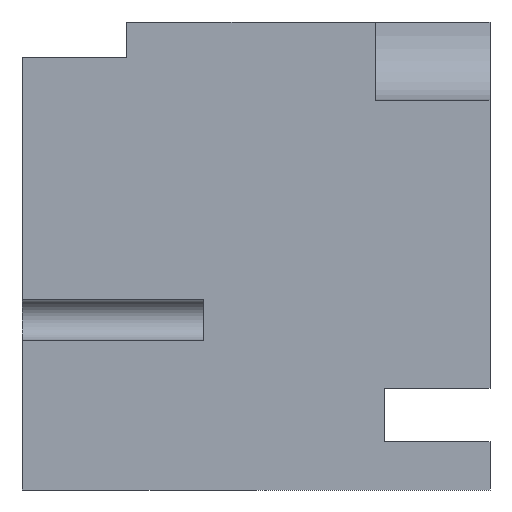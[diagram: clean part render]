
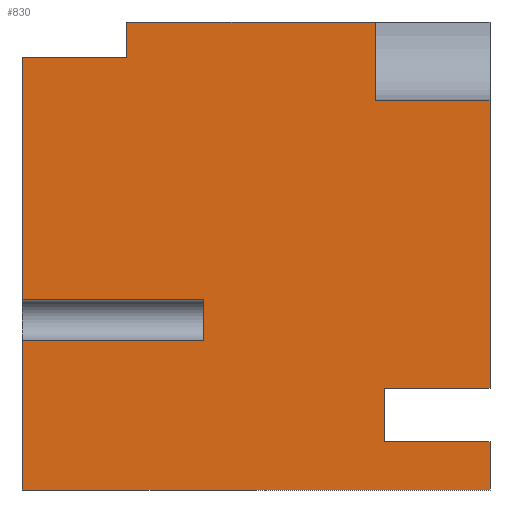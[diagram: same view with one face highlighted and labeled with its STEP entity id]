
A CAD part, left-side view. The second image highlights one B-rep face of the part: STEP entity #830.
In plain terms, the highlighted planar face has unit normal (-1, 0, 0).
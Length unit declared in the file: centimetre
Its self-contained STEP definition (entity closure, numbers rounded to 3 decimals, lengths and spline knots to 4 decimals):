
#3 = ORIENTED_EDGE ( 'NONE', *, *, #40, .F. ) ;
#6 = ORIENTED_EDGE ( 'NONE', *, *, #623, .T. ) ;
#9 = VECTOR ( 'NONE', #583, 100. ) ;
#20 = EDGE_CURVE ( 'NONE', #793, #708, #161, .T. ) ;
#23 = LINE ( 'NONE', #433, #841 ) ;
#25 = CARTESIAN_POINT ( 'NONE',  ( 0., 1000., 320.1759 ) ) ;
#39 = ORIENTED_EDGE ( 'NONE', *, *, #20, .T. ) ;
#40 = EDGE_CURVE ( 'NONE', #587, #319, #504, .T. ) ;
#41 = DIRECTION ( 'NONE',  ( 0., 0., -1. ) ) ;
#43 = LINE ( 'NONE', #889, #874 ) ;
#45 = CARTESIAN_POINT ( 'NONE',  ( 0., 1000., 1000. ) ) ;
#55 = CARTESIAN_POINT ( 'NONE',  ( 0., 244.5027, 1000. ) ) ;
#66 = DIRECTION ( 'NONE',  ( 0., 0., 1. ) ) ;
#71 = VERTEX_POINT ( 'NONE', #661 ) ;
#78 = CARTESIAN_POINT ( 'NONE',  ( 0., 0., 1000. ) ) ;
#111 = EDGE_CURVE ( 'NONE', #542, #824, #387, .T. ) ;
#116 = CARTESIAN_POINT ( 'NONE',  ( 0., 0., 832.9002 ) ) ;
#123 = LINE ( 'NONE', #751, #580 ) ;
#125 = ORIENTED_EDGE ( 'NONE', *, *, #131, .T. ) ;
#131 = EDGE_CURVE ( 'NONE', #767, #425, #43, .T. ) ;
#134 = VECTOR ( 'NONE', #326, 100. ) ;
#143 = CARTESIAN_POINT ( 'NONE',  ( 0., 776.5386, 924.6143 ) ) ;
#149 = VECTOR ( 'NONE', #811, 100. ) ;
#150 = CARTESIAN_POINT ( 'NONE',  ( 0., 0., 103.5396 ) ) ;
#155 = ORIENTED_EDGE ( 'NONE', *, *, #340, .T. ) ;
#158 = EDGE_CURVE ( 'NONE', #208, #350, #529, .T. ) ;
#161 = LINE ( 'NONE', #431, #605 ) ;
#174 = LINE ( 'NONE', #236, #897 ) ;
#184 = ORIENTED_EDGE ( 'NONE', *, *, #561, .F. ) ;
#185 = CARTESIAN_POINT ( 'NONE',  ( 0., 0., 0. ) ) ;
#187 = ORIENTED_EDGE ( 'NONE', *, *, #568, .T. ) ;
#193 = DIRECTION ( 'NONE',  ( 0., -1., 0. ) ) ;
#208 = VERTEX_POINT ( 'NONE', #55 ) ;
#209 = CARTESIAN_POINT ( 'NONE',  ( 0., 776.5386, 924.6143 ) ) ;
#218 = VECTOR ( 'NONE', #193, 100. ) ;
#227 = CARTESIAN_POINT ( 'NONE',  ( 0., 611.2387, 1000. ) ) ;
#232 = CARTESIAN_POINT ( 'NONE',  ( 0., 776.5386, 1000. ) ) ;
#236 = CARTESIAN_POINT ( 'NONE',  ( 0., 611.2387, 320.1759 ) ) ;
#240 = CARTESIAN_POINT ( 'NONE',  ( 0., 1000., 924.6143 ) ) ;
#243 = DIRECTION ( 'NONE',  ( 0., 1., 0. ) ) ;
#256 = DIRECTION ( 'NONE',  ( 0., -1., 0. ) ) ;
#282 = EDGE_CURVE ( 'NONE', #816, #208, #550, .T. ) ;
#293 = DIRECTION ( 'NONE',  ( 0., 0., -1. ) ) ;
#308 = FACE_OUTER_BOUND ( 'NONE', #612, .T. ) ;
#316 = VECTOR ( 'NONE', #776, 100. ) ;
#319 = VERTEX_POINT ( 'NONE', #185 ) ;
#321 = DIRECTION ( 'NONE',  ( 0., 0., -1. ) ) ;
#326 = DIRECTION ( 'NONE',  ( 0., 0., -1. ) ) ;
#328 = CARTESIAN_POINT ( 'NONE',  ( 0., 244.5027, 832.9002 ) ) ;
#337 = EDGE_CURVE ( 'NONE', #415, #816, #686, .T. ) ;
#338 = DIRECTION ( 'NONE',  ( 0., 0., 1. ) ) ;
#340 = EDGE_CURVE ( 'NONE', #542, #350, #486, .T. ) ;
#350 = VERTEX_POINT ( 'NONE', #762 ) ;
#365 = VECTOR ( 'NONE', #456, 100. ) ;
#366 = ORIENTED_EDGE ( 'NONE', *, *, #111, .F. ) ;
#377 = CARTESIAN_POINT ( 'NONE',  ( 0., 611.2387, 320.1759 ) ) ;
#379 = CARTESIAN_POINT ( 'NONE',  ( 0., 1000., 406.4855 ) ) ;
#380 = VERTEX_POINT ( 'NONE', #673 ) ;
#386 = LINE ( 'NONE', #866, #9 ) ;
#387 = LINE ( 'NONE', #739, #735 ) ;
#388 = EDGE_CURVE ( 'NONE', #425, #319, #884, .T. ) ;
#404 = ORIENTED_EDGE ( 'NONE', *, *, #721, .T. ) ;
#415 = VERTEX_POINT ( 'NONE', #465 ) ;
#422 = ORIENTED_EDGE ( 'NONE', *, *, #787, .T. ) ;
#425 = VERTEX_POINT ( 'NONE', #498 ) ;
#431 = CARTESIAN_POINT ( 'NONE',  ( 0., 1000., 1000. ) ) ;
#433 = CARTESIAN_POINT ( 'NONE',  ( 0., 0., 216.8804 ) ) ;
#449 = CARTESIAN_POINT ( 'NONE',  ( 0., 611.2387, 406.4855 ) ) ;
#450 = ORIENTED_EDGE ( 'NONE', *, *, #755, .F. ) ;
#452 = DIRECTION ( 'NONE',  ( 1., 0., 0. ) ) ;
#456 = DIRECTION ( 'NONE',  ( 0., 1., 0. ) ) ;
#462 = ORIENTED_EDGE ( 'NONE', *, *, #158, .F. ) ;
#465 = CARTESIAN_POINT ( 'NONE',  ( 0., 776.5386, 924.6143 ) ) ;
#468 = EDGE_CURVE ( 'NONE', #71, #380, #123, .T. ) ;
#486 = LINE ( 'NONE', #328, #149 ) ;
#494 = VECTOR ( 'NONE', #293, 100. ) ;
#498 = CARTESIAN_POINT ( 'NONE',  ( 0., 1000., 0. ) ) ;
#504 = LINE ( 'NONE', #78, #316 ) ;
#510 = ORIENTED_EDGE ( 'NONE', *, *, #282, .F. ) ;
#524 = LINE ( 'NONE', #449, #365 ) ;
#529 = LINE ( 'NONE', #803, #134 ) ;
#542 = VERTEX_POINT ( 'NONE', #116 ) ;
#550 = LINE ( 'NONE', #45, #615 ) ;
#561 = EDGE_CURVE ( 'NONE', #793, #415, #835, .T. ) ;
#568 = EDGE_CURVE ( 'NONE', #380, #824, #23, .T. ) ;
#579 = VECTOR ( 'NONE', #644, 100. ) ;
#580 = VECTOR ( 'NONE', #338, 100. ) ;
#582 = VECTOR ( 'NONE', #66, 100. ) ;
#583 = DIRECTION ( 'NONE',  ( 0., 1., 0. ) ) ;
#586 = CARTESIAN_POINT ( 'NONE',  ( 0., 1000., 1000. ) ) ;
#587 = VERTEX_POINT ( 'NONE', #150 ) ;
#605 = VECTOR ( 'NONE', #705, 100. ) ;
#612 = EDGE_LOOP ( 'NONE', ( #366, #155, #462, #510, #800, #184, #39, #450, #6, #404, #125, #782, #3, #422, #869, #187 ) ) ;
#615 = VECTOR ( 'NONE', #256, 100. ) ;
#623 = EDGE_CURVE ( 'NONE', #770, #700, #713, .T. ) ;
#644 = DIRECTION ( 'NONE',  ( 0., -1., 0. ) ) ;
#660 = PLANE ( 'NONE',  #720 ) ;
#661 = CARTESIAN_POINT ( 'NONE',  ( 0., 225.3442, 103.5396 ) ) ;
#673 = CARTESIAN_POINT ( 'NONE',  ( 0., 225.3442, 216.8804 ) ) ;
#686 = LINE ( 'NONE', #143, #582 ) ;
#700 = VERTEX_POINT ( 'NONE', #377 ) ;
#705 = DIRECTION ( 'NONE',  ( 0., 0., -1. ) ) ;
#708 = VERTEX_POINT ( 'NONE', #379 ) ;
#713 = LINE ( 'NONE', #227, #494 ) ;
#720 = AXIS2_PLACEMENT_3D ( 'NONE', #586, #452, #41 ) ;
#721 = EDGE_CURVE ( 'NONE', #700, #767, #174, .T. ) ;
#733 = CARTESIAN_POINT ( 'NONE',  ( 0., 611.2387, 406.4855 ) ) ;
#735 = VECTOR ( 'NONE', #321, 100. ) ;
#739 = CARTESIAN_POINT ( 'NONE',  ( 0., 0., 1000. ) ) ;
#751 = CARTESIAN_POINT ( 'NONE',  ( 0., 225.3442, 103.5396 ) ) ;
#752 = DIRECTION ( 'NONE',  ( 0., 0., -1. ) ) ;
#755 = EDGE_CURVE ( 'NONE', #770, #708, #524, .T. ) ;
#762 = CARTESIAN_POINT ( 'NONE',  ( 0., 244.5027, 832.9002 ) ) ;
#767 = VERTEX_POINT ( 'NONE', #25 ) ;
#770 = VERTEX_POINT ( 'NONE', #733 ) ;
#775 = DIRECTION ( 'NONE',  ( 0., -1., 0. ) ) ;
#776 = DIRECTION ( 'NONE',  ( 0., 0., -1. ) ) ;
#782 = ORIENTED_EDGE ( 'NONE', *, *, #388, .T. ) ;
#787 = EDGE_CURVE ( 'NONE', #587, #71, #386, .T. ) ;
#793 = VERTEX_POINT ( 'NONE', #240 ) ;
#794 = CARTESIAN_POINT ( 'NONE',  ( 0., 0., 216.8804 ) ) ;
#800 = ORIENTED_EDGE ( 'NONE', *, *, #337, .F. ) ;
#803 = CARTESIAN_POINT ( 'NONE',  ( 0., 244.5027, 1000. ) ) ;
#811 = DIRECTION ( 'NONE',  ( 0., 1., 0. ) ) ;
#816 = VERTEX_POINT ( 'NONE', #232 ) ;
#824 = VERTEX_POINT ( 'NONE', #794 ) ;
#830 = ADVANCED_FACE ( 'NONE', ( #308 ), #660, .F. ) ;
#835 = LINE ( 'NONE', #209, #579 ) ;
#841 = VECTOR ( 'NONE', #775, 100. ) ;
#866 = CARTESIAN_POINT ( 'NONE',  ( 0., 0., 103.5396 ) ) ;
#869 = ORIENTED_EDGE ( 'NONE', *, *, #468, .T. ) ;
#874 = VECTOR ( 'NONE', #752, 100. ) ;
#884 = LINE ( 'NONE', #905, #218 ) ;
#889 = CARTESIAN_POINT ( 'NONE',  ( 0., 1000., 1000. ) ) ;
#897 = VECTOR ( 'NONE', #243, 100. ) ;
#905 = CARTESIAN_POINT ( 'NONE',  ( 0., 1000., 0. ) ) ;
